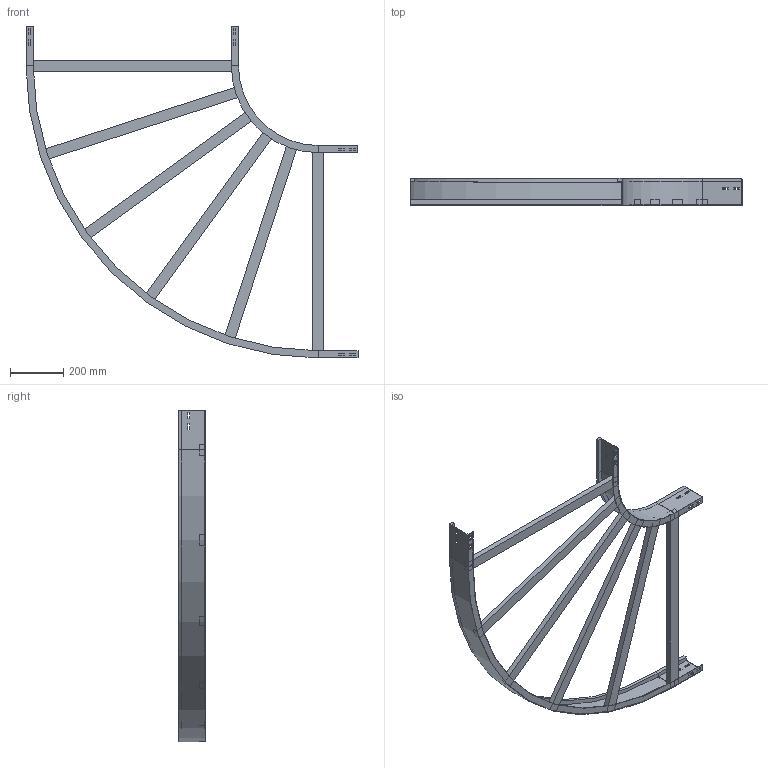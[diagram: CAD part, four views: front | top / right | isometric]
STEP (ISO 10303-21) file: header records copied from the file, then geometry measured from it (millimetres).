
FILE_DESCRIPTION (( 'STEP AP214' ), '1' );
FILE_NAME ('A2_10B3D800.step', '2025-02-21T15:23:11', ( '' ), ( '' ), 'SwSTEP 2.0', 'SolidWorks 2023', '' );
FILE_SCHEMA (( 'AUTOMOTIVE_DESIGN' ));
Length unit declared in the file: millimetre
Products named in the file (4): A2_LONGH.ESTERNO 90°_H100_R300+800; TRAVERSINO_800; A2_10B3D800; A2_LONGH.INTERNO 90°_H100_R300
Assembly tree (8 placements, depth 2):
  A2_10B3D800
    A2_LONGH.INTERNO 90°_H100_R300
    A2_LONGH.ESTERNO 90°_H100_R300+800
    TRAVERSINO_800  x6
Bounding box: 1250 x 100 x 1250 mm (x, y, z)
Volume: 5100840.8 mm3; surface area: 1386858.8 mm2
Topology: 8 solids, 8 shells, 152 faces, 376 edges, 240 vertices
Faces by surface type: plane 144, cylinder 8
Entity records: 3845 total; most frequent: CARTESIAN_POINT 649, ORIENTED_EDGE 632, DIRECTION 598, EDGE_CURVE 316, VECTOR 300, LINE 300, VERTEX_POINT 200, EDGE_LOOP 154
